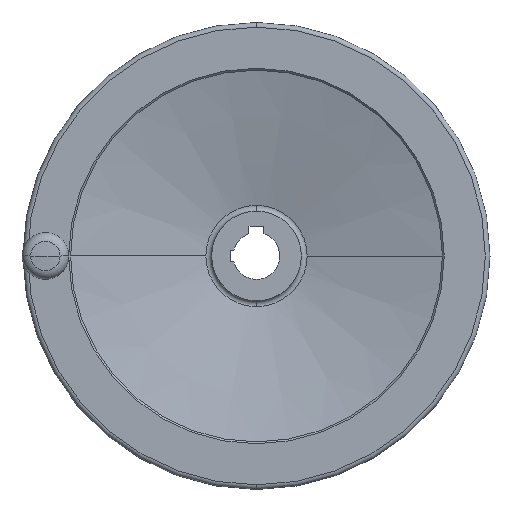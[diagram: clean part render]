
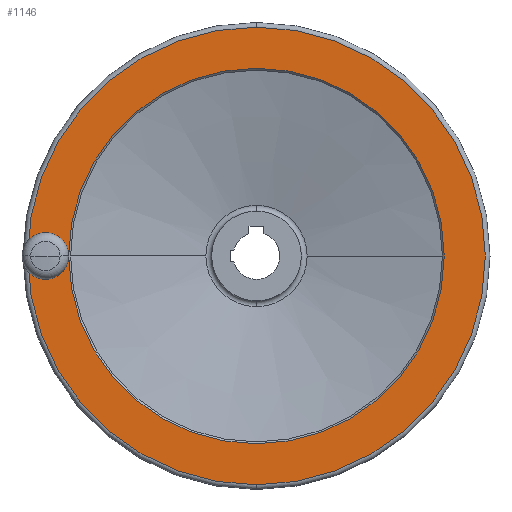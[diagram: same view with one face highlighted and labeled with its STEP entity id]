
A CAD part, left-side view. The second image highlights one B-rep face of the part: STEP entity #1146.
In plain terms, the highlighted planar face has unit normal (-1, 0, 0).
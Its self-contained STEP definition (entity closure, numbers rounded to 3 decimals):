
#2 = DIRECTION ( 'NONE',  ( -1., 0., 0. ) ) ;
#31 = CIRCLE ( 'NONE', #1925, 5. ) ;
#40 = VERTEX_POINT ( 'NONE', #1938 ) ;
#50 = DIRECTION ( 'NONE',  ( 0., 0., 1. ) ) ;
#57 = DIRECTION ( 'NONE',  ( 0., 0., 1. ) ) ;
#144 = CARTESIAN_POINT ( 'NONE',  ( -173., 184., 30.5 ) ) ;
#146 = CARTESIAN_POINT ( 'NONE',  ( -173., 171.5, 30.5 ) ) ;
#151 = EDGE_LOOP ( 'NONE', ( #2567, #1734 ) ) ;
#154 = CARTESIAN_POINT ( 'NONE',  ( -173., -29.5, 30.5 ) ) ;
#240 = AXIS2_PLACEMENT_3D ( 'NONE', #1628, #826, #1881 ) ;
#270 = AXIS2_PLACEMENT_3D ( 'NONE', #2580, #905, #50 ) ;
#286 = CIRCLE ( 'NONE', #1827, 100.5 ) ;
#294 = ORIENTED_EDGE ( 'NONE', *, *, #803, .T. ) ;
#312 = CARTESIAN_POINT ( 'NONE',  ( -173., -29.5, 30.5 ) ) ;
#329 = AXIS2_PLACEMENT_3D ( 'NONE', #926, #501, #57 ) ;
#501 = DIRECTION ( 'NONE',  ( 1., 0., 0. ) ) ;
#510 = ORIENTED_EDGE ( 'NONE', *, *, #1811, .F. ) ;
#549 = DIRECTION ( 'NONE',  ( 0., 0., 1. ) ) ;
#604 = AXIS2_PLACEMENT_3D ( 'NONE', #154, #1665, #2468 ) ;
#626 = DIRECTION ( 'NONE',  ( 0., 0., 1. ) ) ;
#803 = EDGE_CURVE ( 'NONE', #1821, #40, #1721, .T. ) ;
#826 = DIRECTION ( 'NONE',  ( -1., 0., 0. ) ) ;
#832 = EDGE_LOOP ( 'NONE', ( #873, #510 ) ) ;
#840 = PLANE ( 'NONE',  #604 ) ;
#866 = AXIS2_PLACEMENT_3D ( 'NONE', #1871, #2, #626 ) ;
#873 = ORIENTED_EDGE ( 'NONE', *, *, #1557, .F. ) ;
#905 = DIRECTION ( 'NONE',  ( -1., 0., 0. ) ) ;
#926 = CARTESIAN_POINT ( 'NONE',  ( -173., 184., 30.5 ) ) ;
#956 = DIRECTION ( 'NONE',  ( -1., 0., 0. ) ) ;
#999 = DIRECTION ( 'NONE',  ( 0., 0., 1. ) ) ;
#1144 = EDGE_CURVE ( 'NONE', #40, #1821, #2435, .T. ) ;
#1146 = ADVANCED_FACE ( 'NONE', ( #1852, #1249, #2047 ), #840, .T. ) ;
#1249 = FACE_BOUND ( 'NONE', #151, .T. ) ;
#1391 = EDGE_CURVE ( 'NONE', #1915, #1554, #1518, .T. ) ;
#1420 = CARTESIAN_POINT ( 'NONE',  ( -173., 184., 25.5 ) ) ;
#1513 = CARTESIAN_POINT ( 'NONE',  ( -173., 71., 30.5 ) ) ;
#1518 = CIRCLE ( 'NONE', #329, 5. ) ;
#1554 = VERTEX_POINT ( 'NONE', #1420 ) ;
#1557 = EDGE_CURVE ( 'NONE', #2542, #2717, #2571, .T. ) ;
#1604 = CARTESIAN_POINT ( 'NONE',  ( -173., 184., 35.5 ) ) ;
#1628 = CARTESIAN_POINT ( 'NONE',  ( -173., 71., 30.5 ) ) ;
#1665 = DIRECTION ( 'NONE',  ( -1., 0., 0. ) ) ;
#1721 = CIRCLE ( 'NONE', #270, 122.5 ) ;
#1734 = ORIENTED_EDGE ( 'NONE', *, *, #1980, .T. ) ;
#1811 = EDGE_CURVE ( 'NONE', #2717, #2542, #286, .T. ) ;
#1821 = VERTEX_POINT ( 'NONE', #1968 ) ;
#1827 = AXIS2_PLACEMENT_3D ( 'NONE', #1513, #956, #549 ) ;
#1852 = FACE_BOUND ( 'NONE', #832, .T. ) ;
#1871 = CARTESIAN_POINT ( 'NONE',  ( -173., 71., 30.5 ) ) ;
#1881 = DIRECTION ( 'NONE',  ( 0., 0., 1. ) ) ;
#1915 = VERTEX_POINT ( 'NONE', #1604 ) ;
#1925 = AXIS2_PLACEMENT_3D ( 'NONE', #144, #2651, #999 ) ;
#1938 = CARTESIAN_POINT ( 'NONE',  ( -173., 71., -92. ) ) ;
#1968 = CARTESIAN_POINT ( 'NONE',  ( -173., 71., 153. ) ) ;
#1980 = EDGE_CURVE ( 'NONE', #1554, #1915, #31, .T. ) ;
#2047 = FACE_OUTER_BOUND ( 'NONE', #2439, .T. ) ;
#2317 = ORIENTED_EDGE ( 'NONE', *, *, #1144, .T. ) ;
#2435 = CIRCLE ( 'NONE', #240, 122.5 ) ;
#2439 = EDGE_LOOP ( 'NONE', ( #294, #2317 ) ) ;
#2468 = DIRECTION ( 'NONE',  ( 0., 1., 0. ) ) ;
#2542 = VERTEX_POINT ( 'NONE', #312 ) ;
#2567 = ORIENTED_EDGE ( 'NONE', *, *, #1391, .T. ) ;
#2571 = CIRCLE ( 'NONE', #866, 100.5 ) ;
#2580 = CARTESIAN_POINT ( 'NONE',  ( -173., 71., 30.5 ) ) ;
#2651 = DIRECTION ( 'NONE',  ( 1., 0., 0. ) ) ;
#2717 = VERTEX_POINT ( 'NONE', #146 ) ;
